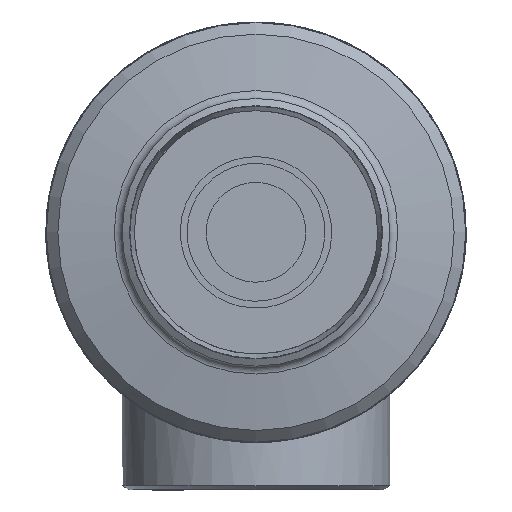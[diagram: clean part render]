
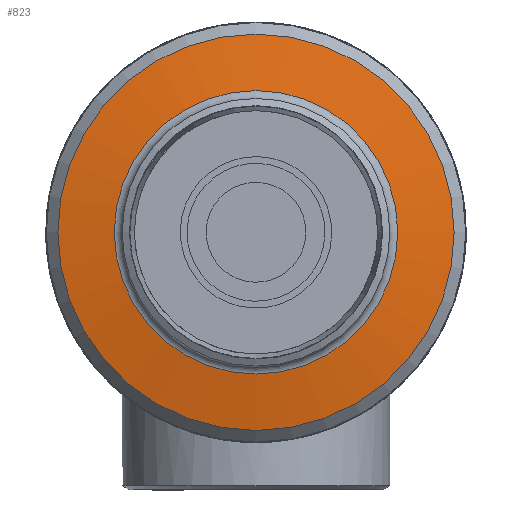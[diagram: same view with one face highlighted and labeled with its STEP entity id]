
A CAD part, front view. The second image highlights one B-rep face of the part: STEP entity #823.
In plain terms, the highlighted conical face has half-angle 80 degrees and reference radius 109.5 mm.
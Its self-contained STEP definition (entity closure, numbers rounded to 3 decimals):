
#741=CARTESIAN_POINT('',(0.0,-21.763,-73.982));
#742=VERTEX_POINT('',#741);
#743=CARTESIAN_POINT('',(0.0,-21.763,0.0));
#744=DIRECTION('',(0.0,-1.0,0.0));
#745=DIRECTION('',(0.0,0.0,-1.0));
#746=AXIS2_PLACEMENT_3D('',#743,#744,#745);
#747=CIRCLE('',#746,73.982);
#748=EDGE_CURVE('',#742,#742,#747,.F.);
#804=CARTESIAN_POINT('',(0.0,-15.5,0.0));
#805=DIRECTION('',(0.0,1.0,0.0));
#806=DIRECTION('',(0.0,0.0,1.0));
#807=AXIS2_PLACEMENT_3D('',#804,#805,#806);
#808=CONICAL_SURFACE('',#807,109.5,80.);
#809=CARTESIAN_POINT('',(0.0,-16.57,-103.43));
#810=VERTEX_POINT('',#809);
#811=CARTESIAN_POINT('',(0.0,-16.57,0.0));
#812=DIRECTION('',(0.0,-1.0,0.0));
#813=DIRECTION('',(0.0,0.0,-1.0));
#814=AXIS2_PLACEMENT_3D('',#811,#812,#813);
#815=CIRCLE('',#814,103.43);
#816=EDGE_CURVE('',#810,#810,#815,.T.);
#817=ORIENTED_EDGE('',*,*,#816,.T.);
#818=EDGE_LOOP('',(#817));
#819=FACE_OUTER_BOUND('',#818,.T.);
#820=ORIENTED_EDGE('',*,*,#748,.T.);
#821=EDGE_LOOP('',(#820));
#822=FACE_BOUND('',#821,.T.);
#823=ADVANCED_FACE('',(#819,#822),#808,.T.);
